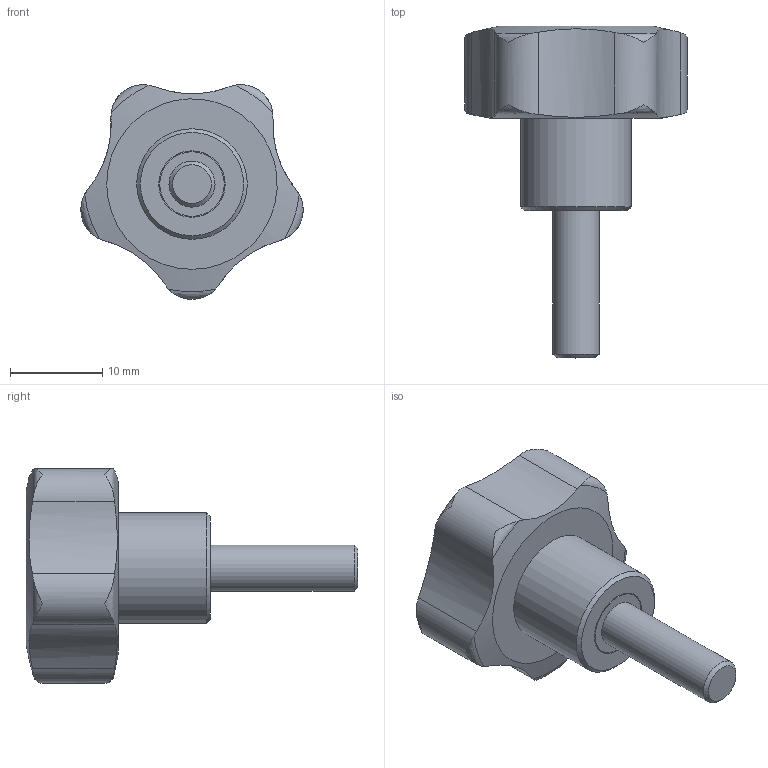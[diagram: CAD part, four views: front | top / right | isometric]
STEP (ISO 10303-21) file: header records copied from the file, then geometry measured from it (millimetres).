
FILE_DESCRIPTION( ( 'STEP AP203' ), '1' );
FILE_NAME( 'C:/Temp/Ganter_Step_05_03_2020/data/2_2/gn_5337_4/gn_5337_4_s/Star knob GN 5337.4-25-M5-16.stp', '2020-03-05T12:09:38', ( 'License CC BY-ND 4.0' ), ( 'CADENAS' ), ' ', 'PARTsolutions', ' ' );
FILE_SCHEMA( ( 'CONFIG_CONTROL_DESIGN' ) );
Length unit declared in the file: millimetre
Products named in the file (1): _Star knob GN 5337.4-25-M5-16
Bounding box: 24.11 x 36 x 23.28 mm (x, y, z)
Volume: 5129.2 mm3; surface area: 2075.9 mm2
Topology: 1 solids, 1 shells, 34 faces, 95 edges, 66 vertices
Faces by surface type: cylinder 14, torus 10, plane 5, cone 3, bspline 1, sphere 1
Full cylindrical faces by diameter (mm): 5 x1, 7 x1, 7.2 x1, 12 x1
Entity records: 1417 total; most frequent: CARTESIAN_POINT 629, ORIENTED_EDGE 164, DIRECTION 122, EDGE_CURVE 82, VERTEX_POINT 63, AXIS2_PLACEMENT_3D 56, B_SPLINE_CURVE_WITH_KNOTS 50, EDGE_LOOP 46
